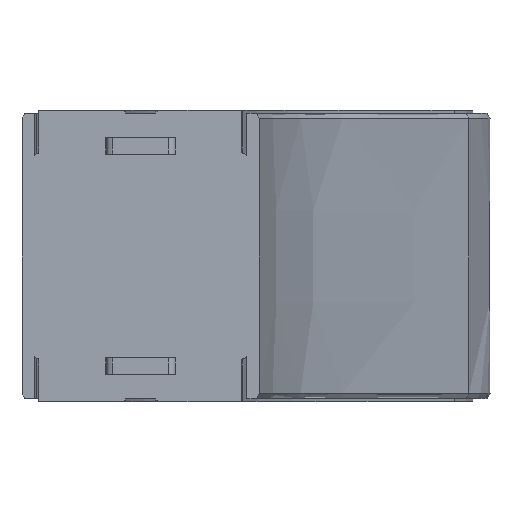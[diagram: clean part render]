
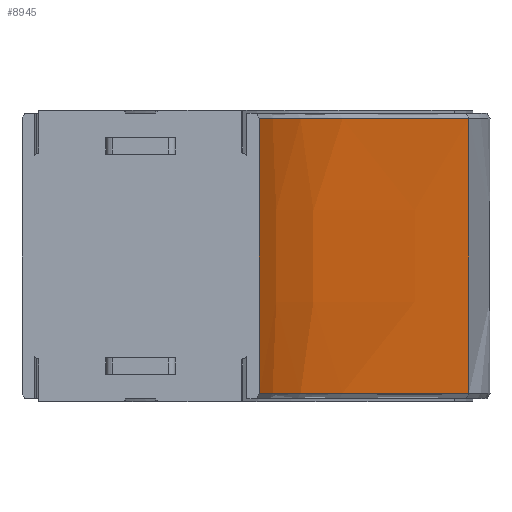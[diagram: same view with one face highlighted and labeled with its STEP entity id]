
A CAD part, left-side view. The second image highlights one B-rep face of the part: STEP entity #8945.
In plain terms, the highlighted free-form (B-spline) face has degree [3, 3] with [4, 8] control points.
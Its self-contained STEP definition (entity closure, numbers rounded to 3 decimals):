
#144 = DIRECTION ( 'NONE',  ( 0., 0., 1. ) ) ;
#818 = CARTESIAN_POINT ( 'NONE',  ( -136.491, -17.171, -49.366 ) ) ;
#835 = CARTESIAN_POINT ( 'NONE',  ( -206.842, -0.636, -16.455 ) ) ;
#897 = CARTESIAN_POINT ( 'NONE',  ( -176.8, -4.794, 16.455 ) ) ;
#947 = CARTESIAN_POINT ( 'NONE',  ( -67.811, -55.779, 16.455 ) ) ;
#965 = CARTESIAN_POINT ( 'NONE',  ( -34.735, -75.328, -49.366 ) ) ;
#1819 = CARTESIAN_POINT ( 'NONE',  ( -45.704, -68.698, 49.366 ) ) ;
#1924 = CARTESIAN_POINT ( 'NONE',  ( -136.54, -17.167, 16.455 ) ) ;
#1958 = CARTESIAN_POINT ( 'NONE',  ( -67.811, -55.779, -16.455 ) ) ;
#1991 = CARTESIAN_POINT ( 'NONE',  ( -136.491, -17.171, 49.366 ) ) ;
#2019 = CARTESIAN_POINT ( 'NONE',  ( -34.735, -75.328, 49.366 ) ) ;
#2248 = CARTESIAN_POINT ( 'NONE',  ( -206.398, -0.659, 49.366 ) ) ;
#2284 = EDGE_CURVE ( 'NONE', #7483, #9564, #10094, .T. ) ;
#2671 = CARTESIAN_POINT ( 'NONE',  ( -34.735, -75.328, -49.366 ) ) ;
#2909 = CARTESIAN_POINT ( 'NONE',  ( -176.8, -4.794, -16.455 ) ) ;
#3254 = CARTESIAN_POINT ( 'NONE',  ( -136.491, -17.171, 49.366 ) ) ;
#3324 = VERTEX_POINT ( 'NONE', #2019 ) ;
#3473 = CARTESIAN_POINT ( 'NONE',  ( -221.138, 0.112, 0. ) ) ;
#4015 = CARTESIAN_POINT ( 'NONE',  ( -67.789, -55.791, -49.366 ) ) ;
#4020 = ORIENTED_EDGE ( 'NONE', *, *, #2284, .F. ) ;
#4030 = CARTESIAN_POINT ( 'NONE',  ( -101.435, -36.586, 49.366 ) ) ;
#4085 = CARTESIAN_POINT ( 'NONE',  ( -221.138, 0.112, 16.455 ) ) ;
#4122 = CARTESIAN_POINT ( 'NONE',  ( -34.735, -75.328, -49.366 ) ) ;
#4435 = CARTESIAN_POINT ( 'NONE',  ( -177.008, -4.783, 49.366 ) ) ;
#4461 = CARTESIAN_POINT ( 'NONE',  ( -34.735, -75.328, 0. ) ) ;
#4543 = EDGE_CURVE ( 'NONE', #7483, #3324, #9281, .T. ) ;
#5077 = CARTESIAN_POINT ( 'NONE',  ( -34.735, -75.328, 16.455 ) ) ;
#5421 = VECTOR ( 'NONE', #144, 1000. ) ;
#5859 = VERTEX_POINT ( 'NONE', #5983 ) ;
#5983 = CARTESIAN_POINT ( 'NONE',  ( -221.138, 0.112, 49.366 ) ) ;
#6079 = CARTESIAN_POINT ( 'NONE',  ( -177.008, -4.783, -49.366 ) ) ;
#6101 = CARTESIAN_POINT ( 'NONE',  ( -177.008, -4.783, 49.366 ) ) ;
#6237 = CARTESIAN_POINT ( 'NONE',  ( -206.842, -0.636, 16.455 ) ) ;
#6296 = CARTESIAN_POINT ( 'NONE',  ( -101.435, -36.586, -49.366 ) ) ;
#6442 = CARTESIAN_POINT ( 'NONE',  ( -67.789, -55.791, 49.366 ) ) ;
#6516 = CARTESIAN_POINT ( 'NONE',  ( -45.704, -68.698, 49.366 ) ) ;
#6566 = CARTESIAN_POINT ( 'NONE',  ( -101.435, -36.586, 49.366 ) ) ;
#6926 = ORIENTED_EDGE ( 'NONE', *, *, #4543, .T. ) ;
#7091 = ORIENTED_EDGE ( 'NONE', *, *, #10633, .F. ) ;
#7296 = CARTESIAN_POINT ( 'NONE',  ( -101.418, -36.59, -16.455 ) ) ;
#7329 = CARTESIAN_POINT ( 'NONE',  ( -221.138, 0.112, -49.366 ) ) ;
#7340 = CARTESIAN_POINT ( 'NONE',  ( -101.418, -36.59, 16.455 ) ) ;
#7382 = CARTESIAN_POINT ( 'NONE',  ( -221.138, 0.112, -49.366 ) ) ;
#7483 = VERTEX_POINT ( 'NONE', #965 ) ;
#7837 = VECTOR ( 'NONE', #13072, 1000. ) ;
#7957 = ORIENTED_EDGE ( 'NONE', *, *, #9637, .T. ) ;
#8279 = CARTESIAN_POINT ( 'NONE',  ( -45.662, -68.723, 16.455 ) ) ;
#8380 = CARTESIAN_POINT ( 'NONE',  ( -221.138, 0.112, -16.455 ) ) ;
#8410 = CARTESIAN_POINT ( 'NONE',  ( -34.735, -75.328, 49.366 ) ) ;
#8464 = CARTESIAN_POINT ( 'NONE',  ( -67.789, -55.791, 49.366 ) ) ;
#8782 = EDGE_LOOP ( 'NONE', ( #6926, #7957, #7091, #4020 ) ) ;
#8930 = B_SPLINE_CURVE_WITH_KNOTS ( 'NONE', 3,
 ( #12979, #6516, #6442, #6566, #3254, #4435, #2248, #11928 ),
 .UNSPECIFIED., .F., .F.,
 ( 4, 1, 1, 1, 1, 4 ),
 ( 0., 0.187, 0.375, 0.562, 0.781, 1. ),
 .UNSPECIFIED. ) ;
#8945 = ADVANCED_FACE ( 'NONE', ( #11730 ), #12540, .T. ) ;
#9281 = LINE ( 'NONE', #4461, #5421 ) ;
#9376 = CARTESIAN_POINT ( 'NONE',  ( -45.704, -68.698, -49.366 ) ) ;
#9425 = CARTESIAN_POINT ( 'NONE',  ( -136.491, -17.171, -49.366 ) ) ;
#9469 = CARTESIAN_POINT ( 'NONE',  ( -101.435, -36.586, -49.366 ) ) ;
#9526 = CARTESIAN_POINT ( 'NONE',  ( -206.398, -0.659, 49.366 ) ) ;
#9564 = VERTEX_POINT ( 'NONE', #9588 ) ;
#9588 = CARTESIAN_POINT ( 'NONE',  ( -221.138, 0.112, -49.366 ) ) ;
#9637 = EDGE_CURVE ( 'NONE', #3324, #5859, #8930, .T. ) ;
#10094 = B_SPLINE_CURVE_WITH_KNOTS ( 'NONE', 3,
 ( #4122, #11620, #4015, #9469, #818, #6079, #10354, #7329 ),
 .UNSPECIFIED., .F., .F.,
 ( 4, 1, 1, 1, 1, 4 ),
 ( 0., 0.187, 0.375, 0.562, 0.781, 1. ),
 .UNSPECIFIED. ) ;
#10354 = CARTESIAN_POINT ( 'NONE',  ( -206.398, -0.659, -49.366 ) ) ;
#10466 = CARTESIAN_POINT ( 'NONE',  ( -34.735, -75.328, -16.455 ) ) ;
#10520 = CARTESIAN_POINT ( 'NONE',  ( -136.54, -17.167, -16.455 ) ) ;
#10633 = EDGE_CURVE ( 'NONE', #9564, #5859, #11178, .T. ) ;
#11178 = LINE ( 'NONE', #3473, #7837 ) ;
#11550 = CARTESIAN_POINT ( 'NONE',  ( -221.138, 0.112, 49.366 ) ) ;
#11620 = CARTESIAN_POINT ( 'NONE',  ( -45.704, -68.698, -49.366 ) ) ;
#11645 = CARTESIAN_POINT ( 'NONE',  ( -67.789, -55.791, -49.366 ) ) ;
#11730 = FACE_OUTER_BOUND ( 'NONE', #8782, .T. ) ;
#11928 = CARTESIAN_POINT ( 'NONE',  ( -221.138, 0.112, 49.366 ) ) ;
#12540 = B_SPLINE_SURFACE_WITH_KNOTS ( 'NONE', 3, 3, ( 
 ( #2671, #9376, #11645, #6296, #9425, #13789, #12724, #7382 ),
 ( #10466, #12543, #1958, #7296, #10520, #2909, #835, #8380 ),
 ( #5077, #8279, #947, #7340, #1924, #897, #6237, #4085 ),
 ( #8410, #1819, #8464, #4030, #1991, #6101, #9526, #11550 ) ),
 .UNSPECIFIED., .F., .F., .F.,
 ( 4, 4 ),
 ( 4, 1, 1, 1, 1, 4 ),
 ( 0.001, 0.414 ),
 ( 0., 0.187, 0.375, 0.562, 0.781, 1. ),
 .UNSPECIFIED. ) ;
#12543 = CARTESIAN_POINT ( 'NONE',  ( -45.662, -68.723, -16.455 ) ) ;
#12724 = CARTESIAN_POINT ( 'NONE',  ( -206.398, -0.659, -49.366 ) ) ;
#12979 = CARTESIAN_POINT ( 'NONE',  ( -34.735, -75.328, 49.366 ) ) ;
#13072 = DIRECTION ( 'NONE',  ( 0., 0., 1. ) ) ;
#13789 = CARTESIAN_POINT ( 'NONE',  ( -177.008, -4.783, -49.366 ) ) ;
